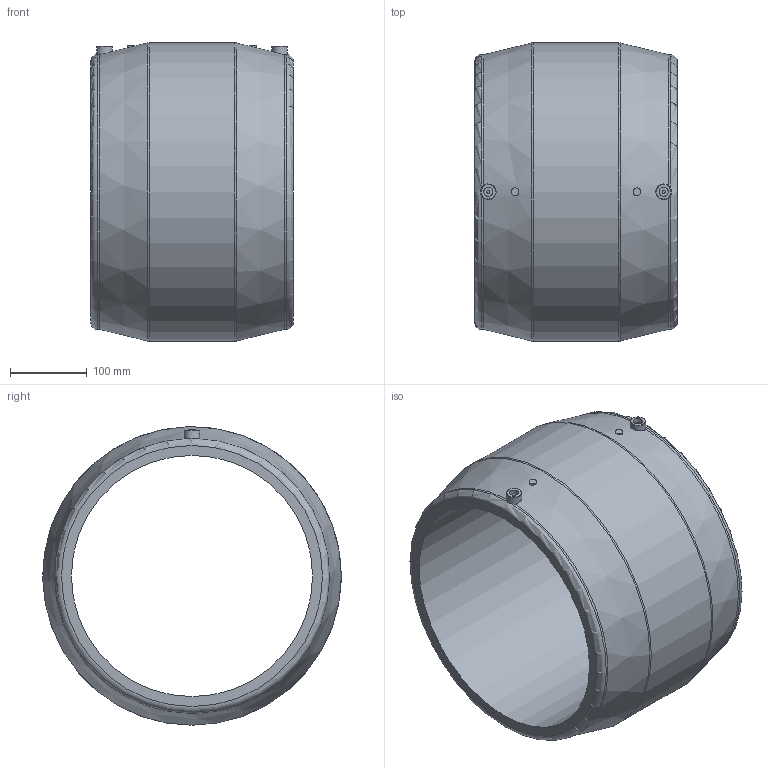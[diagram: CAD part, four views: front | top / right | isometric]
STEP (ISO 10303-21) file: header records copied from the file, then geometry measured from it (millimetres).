
FILE_DESCRIPTION(/* description */ ('Unknown'),/* implementation_level */ '2;1');
FILE_NAME(/* name */ 'MP315C',/* time_stamp */ '2021-02-11T09:00:23+01:00',/* author */ ('Unknown'),/* organization */ ('Unknown'),/* preprocessor_version */ 'ST-DEVELOPER v16.7',/* originating_system */ 'Solid Edge',/* authorisation */ 'Unknown');
FILE_SCHEMA (('AUTOMOTIVE_DESIGN {1 0 10303 214 3 1 1}'));
Length unit declared in the file: millimetre
Products named in the file (1): MP315C
Bounding box: 265 x 390 x 390 mm (x, y, z)
Volume: 9357588.4 mm3; surface area: 623220.7 mm2
Topology: 1 solids, 1 shells, 30 faces, 65 edges, 43 vertices
Faces by surface type: cylinder 10, plane 10, torus 6, cone 4
Full cylindrical faces by diameter (mm): 4 x2, 10 x2, 12 x2, 315 x1, 390 x1
Entity records: 720 total; most frequent: CARTESIAN_POINT 167, DIRECTION 114, ORIENTED_EDGE 72, AXIS2_PLACEMENT_3D 57, EDGE_LOOP 56, FACE_BOUND 56, EDGE_CURVE 36, VERTEX_POINT 32
